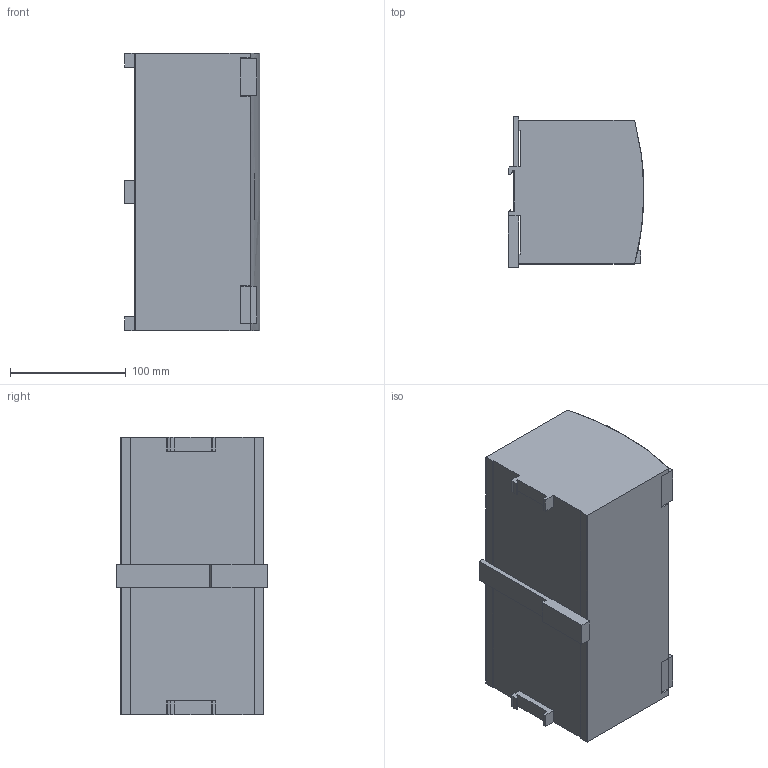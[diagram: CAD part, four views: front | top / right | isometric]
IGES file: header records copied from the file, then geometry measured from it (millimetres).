
Start section: SolidWorks IGES FILE using analytic representation for surfaces
Global section: file name: C:\Vertrieb\SL20_303\SL20_303.IGS; native system: SolidWorks 2004 by SolidWorks Corporation; preprocessor: Version 5.3; author: heinrij; date: 040216.160316; units: millimetre
Bounding box: 117.63 x 130.5 x 240 mm (x, y, z)
Surface area: 145750.7 mm2 (no closed solid volume)
Topology: 0 solids, 0 shells, 740 faces, 6975 edges, 6975 vertices
Faces by surface type: bspline 699, revolution 41
